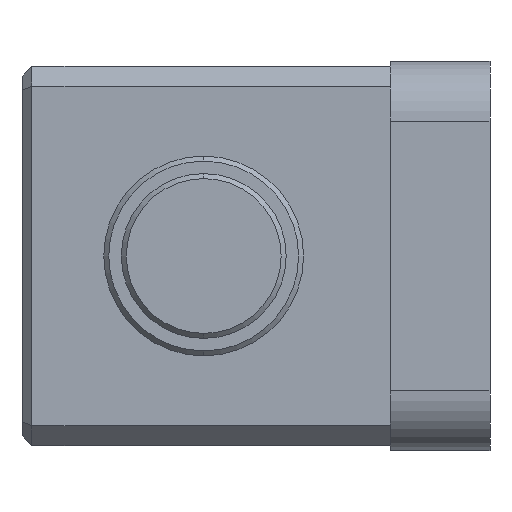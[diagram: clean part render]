
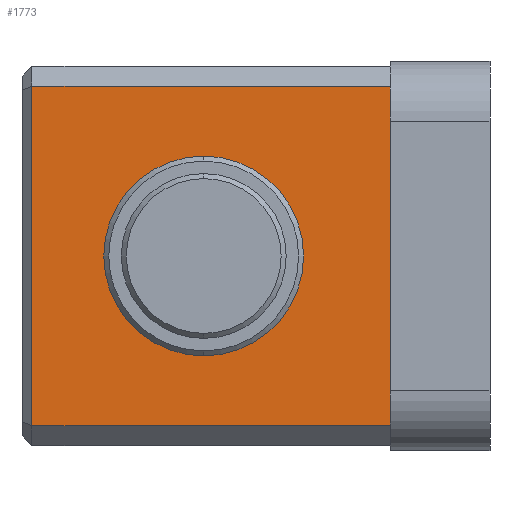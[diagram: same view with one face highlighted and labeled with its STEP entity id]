
A CAD part, left-side view. The second image highlights one B-rep face of the part: STEP entity #1773.
In plain terms, the highlighted planar face has unit normal (-1, 0, 0).
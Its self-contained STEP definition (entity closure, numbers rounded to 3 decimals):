
#7 = VECTOR ( 'NONE', #2400, 1000. ) ;
#112 = ORIENTED_EDGE ( 'NONE', *, *, #842, .T. ) ;
#158 = EDGE_CURVE ( 'NONE', #2353, #1211, #972, .T. ) ;
#174 = CARTESIAN_POINT ( 'NONE',  ( -8., 55.85, 17. ) ) ;
#193 = CARTESIAN_POINT ( 'NONE',  ( -8., 20., -17. ) ) ;
#228 = CARTESIAN_POINT ( 'NONE',  ( -8., 56.85, 17. ) ) ;
#337 = VECTOR ( 'NONE', #1564, 1000. ) ;
#401 = DIRECTION ( 'NONE',  ( 0., 0., 1. ) ) ;
#417 = DIRECTION ( 'NONE',  ( -1., 0., 0. ) ) ;
#422 = DIRECTION ( 'NONE',  ( 0., 1., 0. ) ) ;
#432 = ORIENTED_EDGE ( 'NONE', *, *, #1362, .T. ) ;
#454 = ORIENTED_EDGE ( 'NONE', *, *, #158, .T. ) ;
#468 = EDGE_LOOP ( 'NONE', ( #2313, #1839 ) ) ;
#509 = VECTOR ( 'NONE', #1756, 1000. ) ;
#537 = VERTEX_POINT ( 'NONE', #2157 ) ;
#643 = DIRECTION ( 'NONE',  ( 0., 0., 1. ) ) ;
#706 = CARTESIAN_POINT ( 'NONE',  ( -8., 55.85, -17. ) ) ;
#773 = DIRECTION ( 'NONE',  ( 1., 0., 0. ) ) ;
#804 = LINE ( 'NONE', #1179, #337 ) ;
#842 = EDGE_CURVE ( 'NONE', #537, #1423, #1723, .T. ) ;
#855 = AXIS2_PLACEMENT_3D ( 'NONE', #1154, #773, #1528 ) ;
#899 = VERTEX_POINT ( 'NONE', #1926 ) ;
#935 = VERTEX_POINT ( 'NONE', #2444 ) ;
#972 = LINE ( 'NONE', #1563, #509 ) ;
#995 = CIRCLE ( 'NONE', #1319, 10. ) ;
#996 = EDGE_CURVE ( 'NONE', #935, #899, #1621, .T. ) ;
#1154 = CARTESIAN_POINT ( 'NONE',  ( -8., 38.66, 0. ) ) ;
#1179 = CARTESIAN_POINT ( 'NONE',  ( -8., 20., -19. ) ) ;
#1185 = DIRECTION ( 'NONE',  ( 1., 0., 0. ) ) ;
#1211 = VERTEX_POINT ( 'NONE', #193 ) ;
#1287 = EDGE_CURVE ( 'NONE', #537, #1211, #804, .T. ) ;
#1319 = AXIS2_PLACEMENT_3D ( 'NONE', #2126, #1185, #401 ) ;
#1362 = EDGE_CURVE ( 'NONE', #1423, #2353, #2035, .T. ) ;
#1423 = VERTEX_POINT ( 'NONE', #174 ) ;
#1520 = AXIS2_PLACEMENT_3D ( 'NONE', #1540, #417, #643 ) ;
#1528 = DIRECTION ( 'NONE',  ( 0., 0., 1. ) ) ;
#1540 = CARTESIAN_POINT ( 'NONE',  ( -8., 56.85, 19. ) ) ;
#1563 = CARTESIAN_POINT ( 'NONE',  ( -8., 20., -17. ) ) ;
#1564 = DIRECTION ( 'NONE',  ( 0., 0., -1. ) ) ;
#1581 = FACE_OUTER_BOUND ( 'NONE', #2419, .T. ) ;
#1621 = CIRCLE ( 'NONE', #855, 10. ) ;
#1723 = LINE ( 'NONE', #228, #2476 ) ;
#1756 = DIRECTION ( 'NONE',  ( 0., -1., 0. ) ) ;
#1762 = FACE_BOUND ( 'NONE', #468, .T. ) ;
#1773 = ADVANCED_FACE ( 'NONE', ( #1762, #1581 ), #1965, .T. ) ;
#1839 = ORIENTED_EDGE ( 'NONE', *, *, #996, .T. ) ;
#1926 = CARTESIAN_POINT ( 'NONE',  ( -8., 38.66, 10. ) ) ;
#1965 = PLANE ( 'NONE',  #1520 ) ;
#2035 = LINE ( 'NONE', #706, #7 ) ;
#2054 = ORIENTED_EDGE ( 'NONE', *, *, #1287, .F. ) ;
#2126 = CARTESIAN_POINT ( 'NONE',  ( -8., 38.66, 0. ) ) ;
#2157 = CARTESIAN_POINT ( 'NONE',  ( -8., 20., 17. ) ) ;
#2313 = ORIENTED_EDGE ( 'NONE', *, *, #2429, .T. ) ;
#2353 = VERTEX_POINT ( 'NONE', #2438 ) ;
#2400 = DIRECTION ( 'NONE',  ( 0., 0., -1. ) ) ;
#2419 = EDGE_LOOP ( 'NONE', ( #112, #432, #454, #2054 ) ) ;
#2429 = EDGE_CURVE ( 'NONE', #899, #935, #995, .T. ) ;
#2438 = CARTESIAN_POINT ( 'NONE',  ( -8., 55.85, -17. ) ) ;
#2444 = CARTESIAN_POINT ( 'NONE',  ( -8., 38.66, -10. ) ) ;
#2476 = VECTOR ( 'NONE', #422, 1000. ) ;
